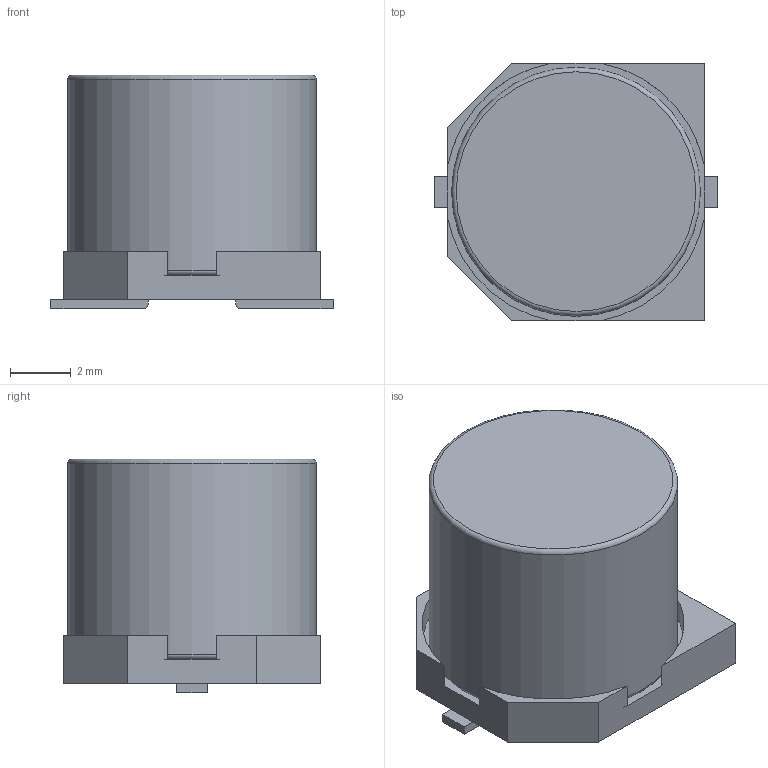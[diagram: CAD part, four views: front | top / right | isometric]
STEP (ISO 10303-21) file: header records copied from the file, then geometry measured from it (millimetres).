
FILE_DESCRIPTION(('FreeCAD Model'),'2;1');
FILE_NAME('/var/www/3D/0T/468027.4.1.stp','2020-09-18T05:17:22',( 'Author'),(''),'Open CASCADE STEP processor 6.9','FreeCAD','Unknown' );
FILE_SCHEMA(('AUTOMOTIVE_DESIGN { 1 0 10303 214 1 1 1 1 }'));
Length unit declared in the file: millimetre
Products named in the file (5): ASSEMBLY; Base; Pin1Fillet; Pin2Fillet; Fillet
Assembly tree (4 placements, depth 2):
  ASSEMBLY
    Base
    Pin1Fillet
    Pin2Fillet
    Fillet
Bounding box: 9.3 x 8.5 x 7.7 mm (x, y, z)
Volume: 411.8 mm3; surface area: 487.3 mm2
Topology: 4 solids, 4 shells, 35 faces, 79 edges, 52 vertices
Faces by surface type: plane 26, cylinder 7, torus 2
Full cylindrical faces by diameter (mm): 8.2 x1
Entity records: 2098 total; most frequent: CARTESIAN_POINT 369, DIRECTION 305, LINE 177, VECTOR 177, ORIENTED_EDGE 158, PCURVE 158, DEFINITIONAL_REPRESENTATION 158, EDGE_CURVE 79
